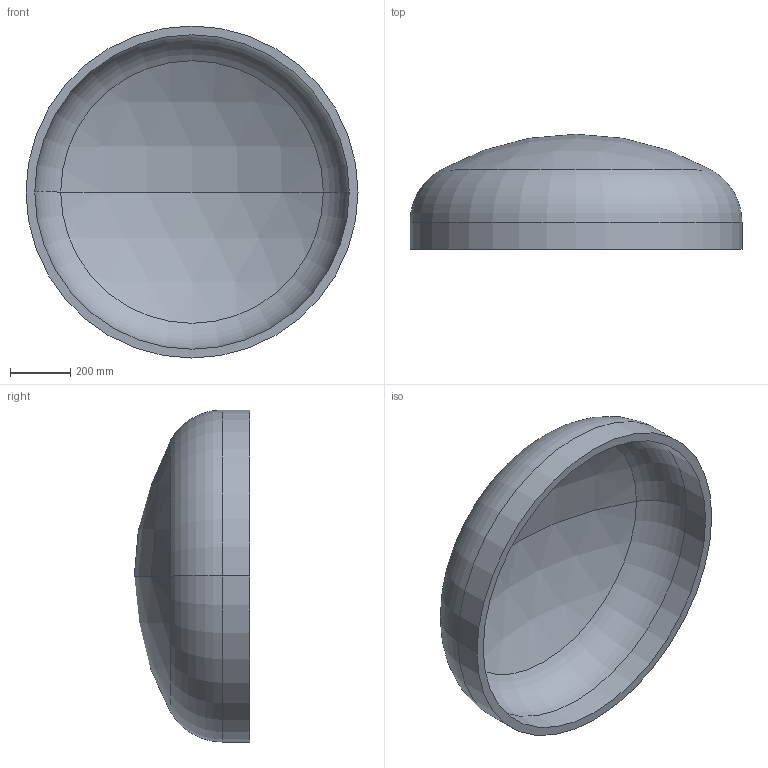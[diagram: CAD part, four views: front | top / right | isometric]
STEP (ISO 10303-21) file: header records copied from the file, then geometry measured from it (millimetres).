
FILE_DESCRIPTION (( 'STEP AP203' ), '1' );
FILE_NAME ('DIN 28013 Korbbogenform_-_Boden DIN 28013 - 1100 x 90 - I - s=29.step', '2016-07-01T09:05:02', ( '' ), ( '' ), 'SwSTEP 2.0', 'SolidWorks 2013', '' );
FILE_SCHEMA (( 'CONFIG_CONTROL_DESIGN' ));
Length unit declared in the file: millimetre
Products named in the file (1): DIN 28013 Korbbogenform_-_Boden DIN 28013 - 1100 x 90 - I - s=29
Bounding box: 1100 x 381.83 x 1100 mm (x, y, z)
Volume: 45681577.1 mm3; surface area: 3249788.8 mm2
Topology: 1 solids, 1 shells, 13 faces, 24 edges, 14 vertices
Faces by surface type: torus 4, cylinder 4, sphere 4, plane 1
Entity records: 407 total; most frequent: DIRECTION 72, CARTESIAN_POINT 52, ORIENTED_EDGE 48, AXIS2_PLACEMENT_3D 34, EDGE_CURVE 24, CIRCLE 20, EDGE_LOOP 14, VERTEX_POINT 14
